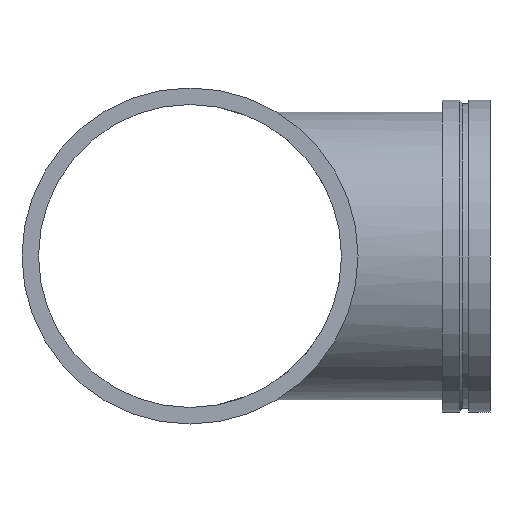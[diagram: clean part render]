
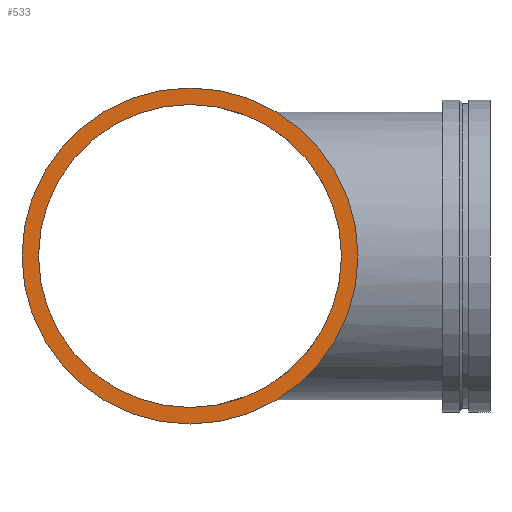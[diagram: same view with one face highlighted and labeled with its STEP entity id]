
A CAD part, left-side view. The second image highlights one B-rep face of the part: STEP entity #533.
In plain terms, the highlighted planar face has unit normal (-1, 0, 0).
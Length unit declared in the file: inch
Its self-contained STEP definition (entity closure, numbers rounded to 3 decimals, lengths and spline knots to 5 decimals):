
#58=FACE_BOUND('',#128,.T.);
#67=PLANE('',#626);
#92=FACE_OUTER_BOUND('',#127,.T.);
#127=EDGE_LOOP('',(#465,#466));
#128=EDGE_LOOP('',(#467,#468));
#151=CIRCLE('',#587,14.);
#152=CIRCLE('',#588,14.);
#175=CIRCLE('',#624,12.625);
#176=CIRCLE('',#625,12.625);
#239=VERTEX_POINT('',#1161);
#240=VERTEX_POINT('',#1163);
#263=VERTEX_POINT('',#1230);
#264=VERTEX_POINT('',#1232);
#299=EDGE_CURVE('',#239,#240,#151,.T.);
#300=EDGE_CURVE('',#240,#239,#152,.T.);
#331=EDGE_CURVE('',#264,#263,#175,.T.);
#332=EDGE_CURVE('',#263,#264,#176,.T.);
#465=ORIENTED_EDGE('',*,*,#300,.F.);
#466=ORIENTED_EDGE('',*,*,#299,.F.);
#467=ORIENTED_EDGE('',*,*,#331,.T.);
#468=ORIENTED_EDGE('',*,*,#332,.T.);
#533=ADVANCED_FACE('',(#92,#58),#67,.T.);
#587=AXIS2_PLACEMENT_3D('',#1164,#716,#717);
#588=AXIS2_PLACEMENT_3D('',#1165,#718,#719);
#624=AXIS2_PLACEMENT_3D('',#1233,#798,#799);
#625=AXIS2_PLACEMENT_3D('',#1234,#800,#801);
#626=AXIS2_PLACEMENT_3D('',#1235,#802,#803);
#716=DIRECTION('center_axis',(1.,0.,0.));
#717=DIRECTION('ref_axis',(0.,0.,1.));
#718=DIRECTION('center_axis',(1.,0.,0.));
#719=DIRECTION('ref_axis',(0.,0.,1.));
#798=DIRECTION('center_axis',(1.,0.,0.));
#799=DIRECTION('ref_axis',(0.,0.,1.));
#800=DIRECTION('center_axis',(1.,0.,0.));
#801=DIRECTION('ref_axis',(0.,0.,1.));
#802=DIRECTION('center_axis',(-1.,0.,0.));
#803=DIRECTION('ref_axis',(0.,0.,-1.));
#1161=CARTESIAN_POINT('',(-25.5,14.,0.));
#1163=CARTESIAN_POINT('',(-25.5,-14.,0.));
#1164=CARTESIAN_POINT('Origin',(-25.5,0.,0.));
#1165=CARTESIAN_POINT('Origin',(-25.5,0.,0.));
#1230=CARTESIAN_POINT('',(-25.5,12.625,0.));
#1232=CARTESIAN_POINT('',(-25.5,-12.625,0.));
#1233=CARTESIAN_POINT('Origin',(-25.5,0.,0.));
#1234=CARTESIAN_POINT('Origin',(-25.5,0.,0.));
#1235=CARTESIAN_POINT('Origin',(-25.5,-14.,0.));
